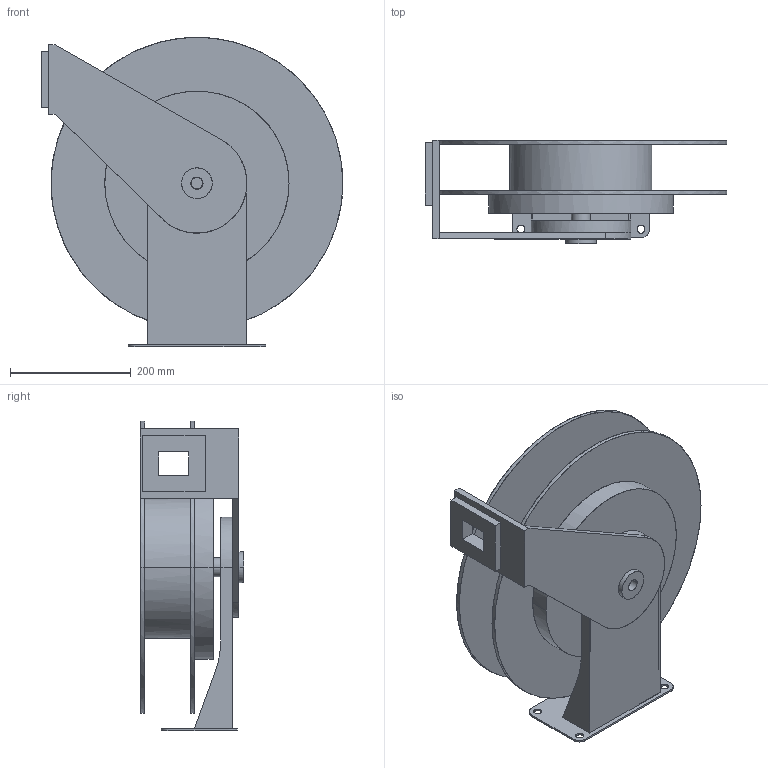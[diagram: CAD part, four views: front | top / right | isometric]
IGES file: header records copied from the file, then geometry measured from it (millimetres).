
Start section: Comment
Global section: file name: 7000 OLP SW.igs; native system:  By UGS Corp.; preprocessor: XPlus GENERIC/IGES 3.0; author: Author; organization: Title; date: 20120809.155128; units: millimetre
Bounding box: 498.88 x 171.45 x 511.41 mm (x, y, z)
Surface area: 1155391.3 mm2 (no closed solid volume)
Topology: 0 solids, 0 shells, 136 faces, 666 edges, 666 vertices
Faces by surface type: bspline 136
